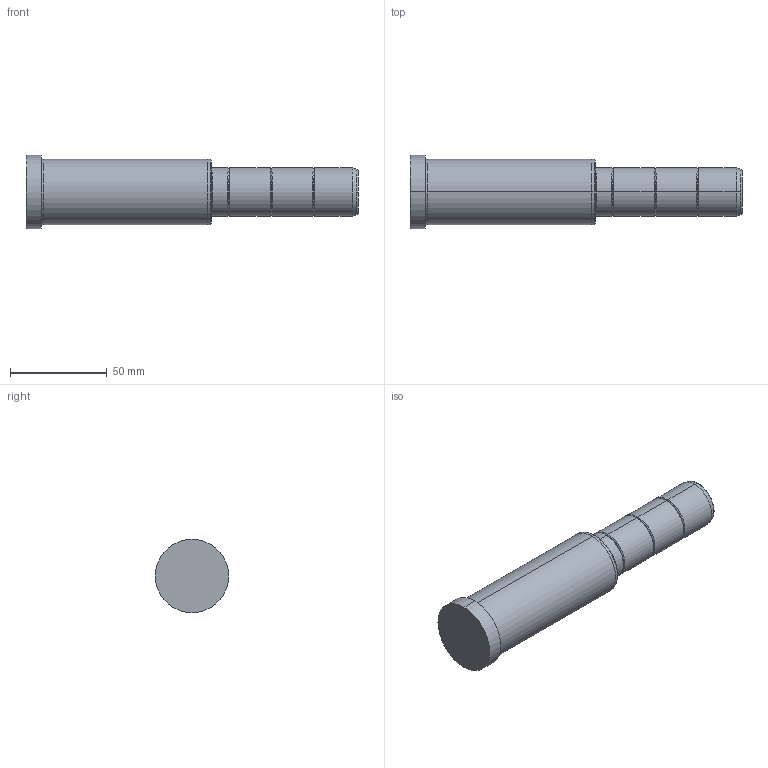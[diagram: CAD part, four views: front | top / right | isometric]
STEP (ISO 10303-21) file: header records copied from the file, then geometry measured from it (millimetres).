
FILE_DESCRIPTION (( 'STEP AP214' ), '1' );
FILE_NAME ('D02_25x96x76.step', '2011-12-25T21:46:57', ( 'Dell' ), ( '' ), 'SwSTEP 2.0', 'SolidWorks 2010', '' );
FILE_SCHEMA (( 'AUTOMOTIVE_DESIGN' ));
Length unit declared in the file: millimetre
Products named in the file (1): D02_25x96x76
Bounding box: 172 x 38 x 38 mm (x, y, z)
Volume: 126170.1 mm3; surface area: 18588.8 mm2
Topology: 1 solids, 1 shells, 42 faces, 98 edges, 62 vertices
Faces by surface type: bspline 16, cylinder 16, plane 6, cone 4
Entity records: 1450 total; most frequent: CARTESIAN_POINT 491, DIRECTION 198, ORIENTED_EDGE 196, EDGE_CURVE 98, AXIS2_PLACEMENT_3D 89, CIRCLE 62, VERTEX_POINT 62, EDGE_LOOP 46
